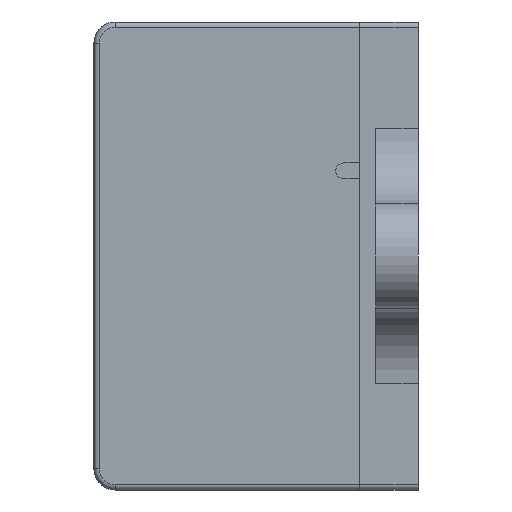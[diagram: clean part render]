
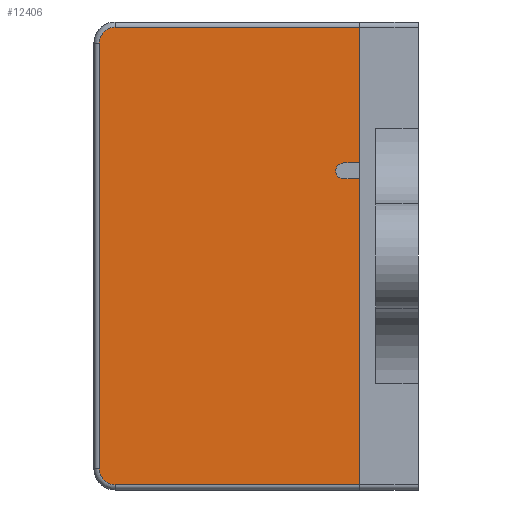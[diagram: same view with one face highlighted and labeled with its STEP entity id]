
A CAD part, left-side view. The second image highlights one B-rep face of the part: STEP entity #12406.
In plain terms, the highlighted planar face has unit normal (-1, 0, 0).
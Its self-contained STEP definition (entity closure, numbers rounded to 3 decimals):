
#295 = CARTESIAN_POINT ( 'NONE',  ( -44., 7., 8.75 ) ) ;
#354 = VECTOR ( 'NONE', #7190, 1000. ) ;
#724 = DIRECTION ( 'NONE',  ( 0., 0., -1. ) ) ;
#739 = CARTESIAN_POINT ( 'NONE',  ( -44., 5.5, 8.75 ) ) ;
#756 = LINE ( 'NONE', #4270, #7052 ) ;
#777 = VERTEX_POINT ( 'NONE', #3505 ) ;
#1177 = CARTESIAN_POINT ( 'NONE',  ( -44., 5.5, -21.5 ) ) ;
#1904 = LINE ( 'NONE', #11786, #11857 ) ;
#2160 = EDGE_CURVE ( 'NONE', #14741, #6706, #6044, .T. ) ;
#2473 = EDGE_LOOP ( 'NONE', ( #14987, #9710, #3640, #3335, #3359, #3201, #12735, #6810, #13703, #8032 ) ) ;
#2740 = VERTEX_POINT ( 'NONE', #12320 ) ;
#2887 = VERTEX_POINT ( 'NONE', #295 ) ;
#3000 = CIRCLE ( 'NONE', #15802, 0.75 ) ;
#3073 = LINE ( 'NONE', #13199, #3647 ) ;
#3201 = ORIENTED_EDGE ( 'NONE', *, *, #10044, .F. ) ;
#3335 = ORIENTED_EDGE ( 'NONE', *, *, #12500, .F. ) ;
#3348 = EDGE_CURVE ( 'NONE', #2887, #3802, #3000, .T. ) ;
#3359 = ORIENTED_EDGE ( 'NONE', *, *, #3348, .F. ) ;
#3372 = EDGE_CURVE ( 'NONE', #15577, #2740, #8271, .T. ) ;
#3453 = EDGE_CURVE ( 'NONE', #4034, #15577, #1904, .T. ) ;
#3505 = CARTESIAN_POINT ( 'NONE',  ( -44., 5.5, 21.5 ) ) ;
#3640 = ORIENTED_EDGE ( 'NONE', *, *, #3372, .T. ) ;
#3647 = VECTOR ( 'NONE', #10655, 1000. ) ;
#3802 = VERTEX_POINT ( 'NONE', #8006 ) ;
#3889 = VERTEX_POINT ( 'NONE', #6941 ) ;
#4034 = VERTEX_POINT ( 'NONE', #14540 ) ;
#4055 = EDGE_CURVE ( 'NONE', #14954, #777, #11318, .T. ) ;
#4270 = CARTESIAN_POINT ( 'NONE',  ( -44., 5.5, 8.75 ) ) ;
#4368 = DIRECTION ( 'NONE',  ( 1., 0., 0. ) ) ;
#4510 = DIRECTION ( 'NONE',  ( 0., -1., 0. ) ) ;
#4540 = FACE_OUTER_BOUND ( 'NONE', #2473, .T. ) ;
#4556 = DIRECTION ( 'NONE',  ( 0., 1., 0. ) ) ;
#4583 = CARTESIAN_POINT ( 'NONE',  ( -44., 7., 8. ) ) ;
#4696 = DIRECTION ( 'NONE',  ( 0., 0., -1. ) ) ;
#5197 = EDGE_CURVE ( 'NONE', #777, #3889, #9464, .T. ) ;
#5584 = CARTESIAN_POINT ( 'NONE',  ( -44., 5.5, -22. ) ) ;
#5721 = CARTESIAN_POINT ( 'NONE',  ( -44., 28.5, 20. ) ) ;
#5868 = CARTESIAN_POINT ( 'NONE',  ( -44., 28.5, -20. ) ) ;
#6044 = LINE ( 'NONE', #12084, #10709 ) ;
#6372 = VECTOR ( 'NONE', #8118, 1000. ) ;
#6706 = VERTEX_POINT ( 'NONE', #11534 ) ;
#6789 = CIRCLE ( 'NONE', #12788, 1.5 ) ;
#6810 = ORIENTED_EDGE ( 'NONE', *, *, #5197, .T. ) ;
#6941 = CARTESIAN_POINT ( 'NONE',  ( -44., 28.5, 21.5 ) ) ;
#7052 = VECTOR ( 'NONE', #13098, 1000. ) ;
#7190 = DIRECTION ( 'NONE',  ( 0., 0., 1. ) ) ;
#8006 = CARTESIAN_POINT ( 'NONE',  ( -44., 7., 7.25 ) ) ;
#8032 = ORIENTED_EDGE ( 'NONE', *, *, #2160, .T. ) ;
#8118 = DIRECTION ( 'NONE',  ( 0., 0., 1. ) ) ;
#8245 = CARTESIAN_POINT ( 'NONE',  ( -44., 30.5, 21.5 ) ) ;
#8271 = LINE ( 'NONE', #5584, #6372 ) ;
#8421 = CARTESIAN_POINT ( 'NONE',  ( -44., 5.5, -22. ) ) ;
#8877 = AXIS2_PLACEMENT_3D ( 'NONE', #5868, #10674, #724 ) ;
#9360 = CARTESIAN_POINT ( 'NONE',  ( -44., 30.5, -22. ) ) ;
#9464 = LINE ( 'NONE', #8245, #9701 ) ;
#9486 = DIRECTION ( 'NONE',  ( 0., 0., -1. ) ) ;
#9701 = VECTOR ( 'NONE', #4556, 1000. ) ;
#9710 = ORIENTED_EDGE ( 'NONE', *, *, #3453, .T. ) ;
#10044 = EDGE_CURVE ( 'NONE', #14954, #2887, #756, .T. ) ;
#10475 = DIRECTION ( 'NONE',  ( 0., 0., -1. ) ) ;
#10655 = DIRECTION ( 'NONE',  ( 0., -1., 0. ) ) ;
#10674 = DIRECTION ( 'NONE',  ( -1., 0., 0. ) ) ;
#10709 = VECTOR ( 'NONE', #11917, 1000. ) ;
#11318 = LINE ( 'NONE', #8421, #354 ) ;
#11534 = CARTESIAN_POINT ( 'NONE',  ( -44., 30., -20. ) ) ;
#11786 = CARTESIAN_POINT ( 'NONE',  ( -44., 30.5, -21.5 ) ) ;
#11857 = VECTOR ( 'NONE', #4510, 1000. ) ;
#11917 = DIRECTION ( 'NONE',  ( 0., 0., -1. ) ) ;
#12084 = CARTESIAN_POINT ( 'NONE',  ( -44., 30., -20. ) ) ;
#12320 = CARTESIAN_POINT ( 'NONE',  ( -44., 5.5, 7.25 ) ) ;
#12406 = ADVANCED_FACE ( 'NONE', ( #4540 ), #14349, .F. ) ;
#12500 = EDGE_CURVE ( 'NONE', #3802, #2740, #3073, .T. ) ;
#12735 = ORIENTED_EDGE ( 'NONE', *, *, #4055, .T. ) ;
#12788 = AXIS2_PLACEMENT_3D ( 'NONE', #5721, #13166, #9486 ) ;
#13098 = DIRECTION ( 'NONE',  ( 0., 1., 0. ) ) ;
#13166 = DIRECTION ( 'NONE',  ( -1., 0., 0. ) ) ;
#13199 = CARTESIAN_POINT ( 'NONE',  ( -44., 7., 7.25 ) ) ;
#13398 = EDGE_CURVE ( 'NONE', #6706, #4034, #14614, .T. ) ;
#13703 = ORIENTED_EDGE ( 'NONE', *, *, #15867, .T. ) ;
#13914 = CARTESIAN_POINT ( 'NONE',  ( -44., 30., 20. ) ) ;
#14349 = PLANE ( 'NONE',  #15114 ) ;
#14540 = CARTESIAN_POINT ( 'NONE',  ( -44., 28.5, -21.5 ) ) ;
#14614 = CIRCLE ( 'NONE', #8877, 1.5 ) ;
#14741 = VERTEX_POINT ( 'NONE', #13914 ) ;
#14954 = VERTEX_POINT ( 'NONE', #739 ) ;
#14987 = ORIENTED_EDGE ( 'NONE', *, *, #13398, .T. ) ;
#15114 = AXIS2_PLACEMENT_3D ( 'NONE', #9360, #4368, #4696 ) ;
#15577 = VERTEX_POINT ( 'NONE', #1177 ) ;
#15637 = DIRECTION ( 'NONE',  ( -1., 0., 0. ) ) ;
#15802 = AXIS2_PLACEMENT_3D ( 'NONE', #4583, #15637, #10475 ) ;
#15867 = EDGE_CURVE ( 'NONE', #3889, #14741, #6789, .T. ) ;
